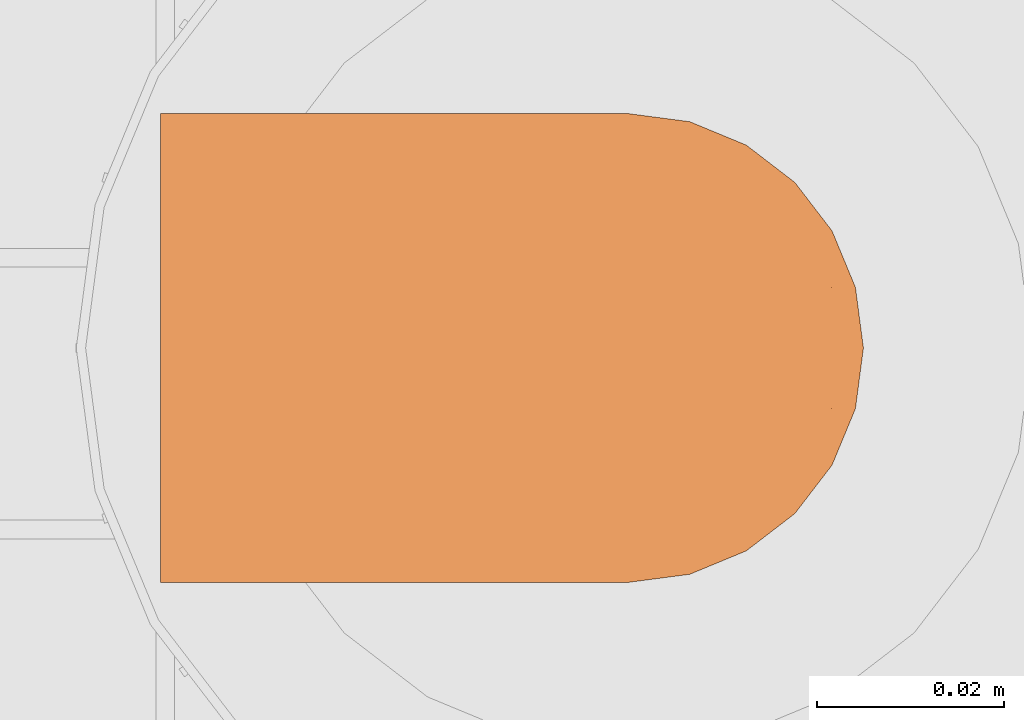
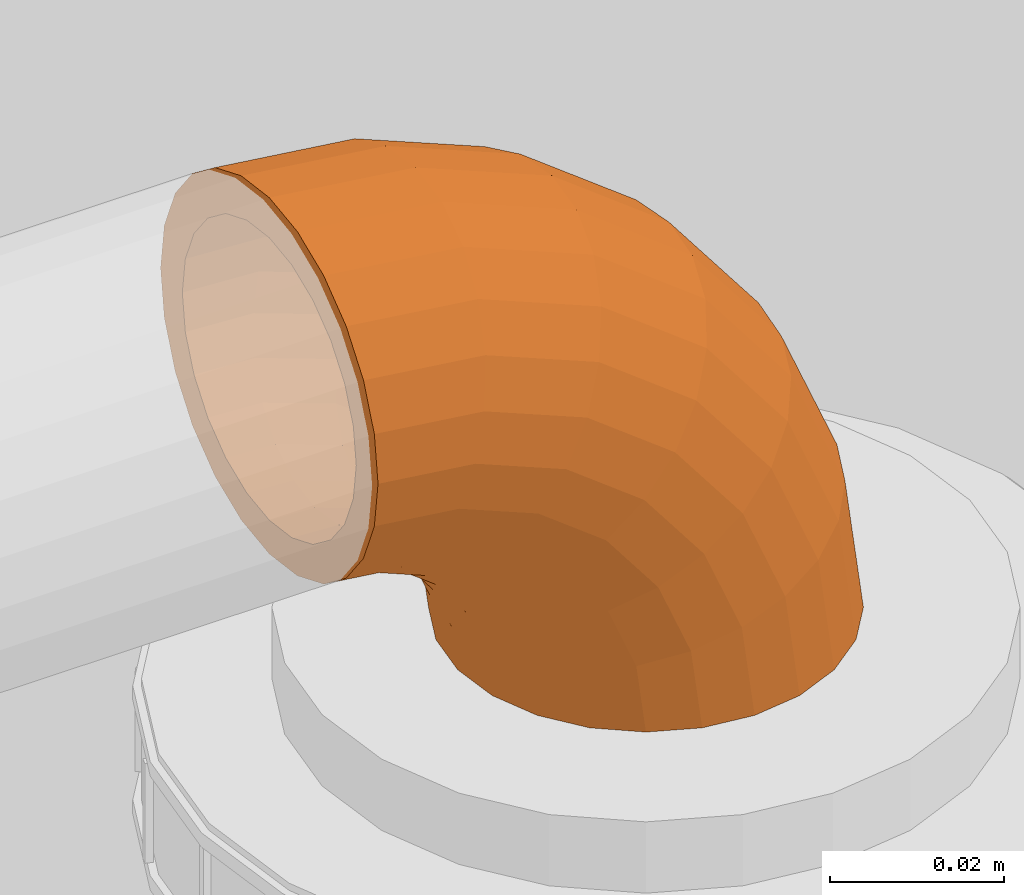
# One storey, part 112 of 112: 1 proxy.
"""IFC2X3 building model written with IfcOpenShell, lengths in millimetres."""

from ifc_helpers import new_model, entity, si_unit, converted_unit, derived_unit, money_unit, direction, frame, origin_with_axes, place, context, subcontext, project, spatial, faceted_brep, type_object, element, save


model = new_model("IFC2X3")

# Units and contexts
model_context = context("Model", 3, precision=0.01, world=origin_with_axes(), true_north=direction((0.0, 1.0)))
body_context = subcontext(model_context, "Body", "Model", "MODEL_VIEW")
ifc_project = project(units=[si_unit("LENGTHUNIT", "METRE", prefix="MILLI"), si_unit("AREAUNIT", "SQUARE_METRE"), si_unit("VOLUMEUNIT", "CUBIC_METRE"), converted_unit("PLANEANGLEUNIT", "DEGREE", entity("IfcPlaneAngleMeasure", 0.0174532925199), si_unit("PLANEANGLEUNIT", "RADIAN"), dimensions=[0, 0, 0, 0, 0, 0, 0]), si_unit("SOLIDANGLEUNIT", "STERADIAN"), money_unit("EUR"), converted_unit("TIMEUNIT", "Year", entity("IfcTimeMeasure", 31556926.0), si_unit("TIMEUNIT", "SECOND"), dimensions=[0, 0, 1, 0, 0, 0, 0]), si_unit("MASSUNIT", "GRAM", prefix="KILO"), si_unit("THERMODYNAMICTEMPERATUREUNIT", "DEGREE_CELSIUS"), si_unit("LUMINOUSINTENSITYUNIT", "LUMEN"), si_unit("ENERGYUNIT", "JOULE", prefix="MEGA"), derived_unit("THERMALCONDUCTANCEUNIT", [(si_unit("POWERUNIT", "WATT"), 1), (si_unit("LENGTHUNIT", "METRE"), -1), (si_unit("THERMODYNAMICTEMPERATUREUNIT", "KELVIN"), -1)]), derived_unit("SPECIFICHEATCAPACITYUNIT", [(si_unit("ENERGYUNIT", "JOULE"), 1), (si_unit("MASSUNIT", "GRAM", prefix="KILO"), -1), (si_unit("THERMODYNAMICTEMPERATUREUNIT", "KELVIN"), -1)]), derived_unit("MASSDENSITYUNIT", [(si_unit("MASSUNIT", "GRAM", prefix="KILO"), 1), (si_unit("VOLUMEUNIT", "CUBIC_METRE"), -1)])], contexts=[model_context])

# Site, building, storey
site_placement = place(None, origin_with_axes())
site = spatial("IfcSite", under=ifc_project, at=site_placement, Name="Politse- ja Piirivalveameti ning Päästeameti ühishoone", CompositionType="ELEMENT")
building_placement = place(site_placement, origin_with_axes())
building = spatial("IfcBuilding", under=site, at=building_placement, Name="Politse- ja Piirivalveameti ning Päästeameti ühishoone", CompositionType="ELEMENT")
storey_placement = place(building_placement, origin_with_axes())
storey = spatial("IfcBuildingStorey", under=building, at=storey_placement, Name="Esimene korrus", CompositionType="ELEMENT", Elevation=0.0)

# Proxy
building_element_proxy_type = type_object("IfcBuildingElementProxyType", Name="Elbow Tube 23", PredefinedType="NOTDEFINED")
proxy_placement = place(storey_placement, frame((67487.8691752, 18116.309139, 2925.0), z_axis=(0.0, 0.0, 1.0), x_axis=(0.0, 1.0, 0.0)))
element("IfcBuildingElementProxy", 1, at=proxy_placement, inside=storey, type_object=building_element_proxy_type, Name="Balloon Novec 1232", context=body_context, shape_type="Brep", body=[
    faceted_brep([(-6.47047612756, 0.0, -24.1481456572), (-12.5, 0.0, -21.6506350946), (-17.6776695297, 0.0, -17.6776695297), (-21.6506350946, 0.0, -12.5), (-24.1481456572, 0.0, -6.47047612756), (-25.0, 0.0, 0.0), (-24.1481456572, 0.0, 6.47047612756), (-21.6506350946, 0.0, 12.5), (-17.6776695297, 0.0, 17.6776695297), (-12.5, 0.0, 21.6506350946), (-6.47047612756, 0.0, 24.1481456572), (0.0, 0.0, 25.0), (6.47047612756, 0.0, 24.1481456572), (12.5, 0.0, 21.6506350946), (17.6776695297, 0.0, 17.6776695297), (21.6506350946, 0.0, 12.5), (24.1481456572, 0.0, 6.47047612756), (25.0, 0.0, 0.0), (24.1481456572, 0.0, -6.47047612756), (21.6506350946, 0.0, -12.5), (17.6776695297, 0.0, -17.6776695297), (12.5, 0.0, -21.6506350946), (6.47047612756, 0.0, -24.1481456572), (0.0, 0.0, -25.0), (10.0, 0.0, -17.6107524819), (14.1421356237, 0.0, -14.4606088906), (17.3205080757, 0.0, -10.3552618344), (19.3185165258, 0.0, -5.57448393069), (20.0, 0.0, -0.444077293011), (19.3185165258, 0.0, 4.68632934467), (17.3205080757, 0.0, 9.46710724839), (14.1421356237, 0.0, 13.5724543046), (10.0, 0.0, 16.7225978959), (5.17638090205, 0.0, 18.7028609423), (0.0, 0.0, 19.3782917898), (-5.17638090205, 0.0, 18.7028609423), (-10.0, 0.0, 16.7225978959), (-14.1421356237, 0.0, 13.5724543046), (-17.3205080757, 0.0, 9.46710724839), (-19.3185165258, 0.0, 4.68632934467), (-20.0, 0.0, -0.444077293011), (-19.3185165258, 0.0, -5.57448393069), (-17.3205080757, 0.0, -10.3552618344), (-14.1421356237, 0.0, -14.4606088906), (-10.0, 0.0, -17.6107524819), (-5.17638090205, 0.0, -19.5910155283), (0.0, 0.0, -20.2664463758), (5.17638090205, 0.0, -19.5910155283), (-12.5, -7.33735555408, -22.616616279), (-6.47047612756, -6.69095225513, -25.0290262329), (-17.6776695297, -8.36563470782, -18.7790262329), (-21.6506350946, -9.70571419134, -13.7777815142), (-24.1481456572, -11.2662698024, -7.95370868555), (-25.0, -12.9409522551, -1.70370868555), (-24.1481456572, -14.6156347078, 4.54629131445), (-21.6506350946, -16.1761903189, 10.3703641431), (-17.6776695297, -17.5162698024, 15.3716088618), (-12.5, -18.5445489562, 19.2091989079), (-6.47047612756, -19.1909522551, 21.6216088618), (0.0, -19.4114283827, 22.4444369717), (6.47047612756, -19.1909522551, 21.6216088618), (12.5, -18.5445489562, 19.2091989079), (17.6776695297, -17.5162698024, 15.3716088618), (21.6506350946, -16.1761903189, 10.3703641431), (24.1481456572, -14.6156347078, 4.54629131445), (25.0, -12.9409522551, -1.70370868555), (24.1481456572, -11.2662698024, -7.95370868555), (21.6506350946, -9.70571419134, -13.7777815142), (17.6776695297, -8.36563470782, -18.7790262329), (12.5, -7.33735555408, -22.616616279), (6.47047612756, -6.69095225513, -25.0290262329), (0.0, -6.47047612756, -25.8518543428), (10.0, -6.60836752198, -17.9956460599), (14.1421356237, -7.25109028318, -14.8829368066), (17.3205080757, -8.08870289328, -10.8263751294), (19.3185165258, -9.06412343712, -6.10240900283), (20.0, -10.1108786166, -1.03296891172), (19.3185165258, -11.1576337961, 4.03647117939), (17.3205080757, -12.1330543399, 8.76043730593), (14.1421356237, -12.97066695, 12.8169989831), (10.0, -13.6133897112, 15.9297082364), (5.17638090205, -14.0174221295, 17.8864390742), (0.0, -14.1552300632, 18.5538435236), (-5.17638090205, -14.0174221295, 17.8864390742), (-10.0, -13.6133897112, 15.9297082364), (-14.1421356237, -12.97066695, 12.8169989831), (-17.3205080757, -12.1330543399, 8.76043730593), (-19.3185165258, -11.1576337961, 4.03647117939), (-20.0, -10.1108786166, -1.03296891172), (-19.3185165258, -9.06412343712, -6.10240900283), (-17.3205080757, -8.08870289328, -10.8263751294), (-14.1421356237, -7.25109028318, -14.8829368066), (-10.0, -6.60836752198, -17.9956460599), (-5.17638090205, -6.2043351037, -19.9523768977), (0.0, -6.06652716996, -20.619781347), (5.17638090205, -6.2043351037, -19.9523768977), (-12.5, -14.1746824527, -25.4487298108), (-6.47047612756, -12.9259271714, -27.6116374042), (-17.6776695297, -16.1611652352, -22.0080407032), (-21.6506350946, -18.75, -17.5240473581), (-24.1481456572, -21.7647619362, -12.3023265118), (-25.0, -25.0, -6.69872981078), (-24.1481456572, -28.2352380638, -1.09513310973), (-21.6506350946, -31.25, 4.12658773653), (-17.6776695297, -33.8388347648, 8.61058108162), (-12.5, -35.8253175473, 12.0512701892), (-6.47047612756, -37.0740728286, 14.2141777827), (0.0, -37.5, 14.9519052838), (6.47047612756, -37.0740728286, 14.2141777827), (12.5, -35.8253175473, 12.0512701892), (17.6776695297, -33.8388347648, 8.61058108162), (21.6506350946, -31.25, 4.12658773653), (24.1481456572, -28.2352380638, -1.09513310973), (25.0, -25.0, -6.69872981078), (24.1481456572, -21.7647619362, -12.3023265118), (21.6506350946, -18.75, -17.5240473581), (17.6776695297, -16.1611652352, -22.0080407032), (12.5, -14.1746824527, -25.4487298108), (6.47047612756, -12.9259271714, -27.6116374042), (0.0, -12.5, -28.3493649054), (14.1421356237, -17.0181556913, -18.4378578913), (10.0, -15.5096989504, -21.2354657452), (17.3205080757, -18.9840147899, -14.7919443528), (19.3185165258, -21.2733061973, -10.5461881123), (20.0, -23.7300184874, -5.98993044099), (19.3185165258, -26.1867307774, -1.43367276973), (17.3205080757, -28.4760221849, 2.81208347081), (14.1421356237, -30.4418812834, 6.45799700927), (10.0, -31.9503380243, 9.25560486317), (5.17638090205, -32.8985935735, 11.0142546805), (0.0, -33.2220258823, 11.6140973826), (-5.17638090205, -32.8985935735, 11.0142546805), (-10.0, -31.9503380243, 9.25560486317), (-14.1421356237, -30.4418812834, 6.45799700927), (-17.3205080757, -28.4760221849, 2.81208347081), (-19.3185165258, -26.1867307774, -1.43367276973), (-20.0, -23.7300184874, -5.98993044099), (-19.3185165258, -21.2733061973, -10.5461881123), (-17.3205080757, -18.9840147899, -14.7919443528), (-14.1421356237, -17.0181556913, -18.4378578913), (-10.0, -15.5096989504, -21.2354657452), (-5.17638090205, -14.5614434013, -22.9941155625), (0.0, -14.2380110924, -23.5939582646), (5.17638090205, -14.5614434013, -22.9941155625), (-12.5, -20.0460281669, -29.9539718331), (-6.47047612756, -18.280021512, -31.719978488), (-17.6776695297, -22.8553390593, -27.1446609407), (-21.6506350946, -26.5165042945, -23.4834957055), (-24.1481456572, -30.780021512, -19.219978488), (-25.0, -35.3553390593, -14.6446609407), (-24.1481456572, -39.9306566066, -10.0693433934), (-21.6506350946, -44.1941738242, -5.80582617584), (-17.6776695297, -47.8553390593, -2.14466094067), (-12.5, -50.6646499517, 0.664649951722), (-6.47047612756, -52.4306566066, 2.43065660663), (0.0, -53.033008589, 3.03300858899), (6.47047612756, -52.4306566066, 2.43065660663), (12.5, -50.6646499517, 0.664649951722), (17.6776695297, -47.8553390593, -2.14466094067), (21.6506350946, -44.1941738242, -5.80582617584), (24.1481456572, -39.9306566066, -10.0693433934), (25.0, -35.3553390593, -14.6446609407), (24.1481456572, -30.780021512, -19.219978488), (21.6506350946, -26.5165042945, -23.4834957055), (17.6776695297, -22.8553390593, -27.1446609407), (12.5, -20.0460281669, -29.9539718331), (6.47047612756, -18.280021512, -31.719978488), (0.0, -17.6776695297, -32.3223304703), (14.1421356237, -25.3553390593, -24.6446609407), (10.0, -23.1078903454, -26.8921096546), (17.3205080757, -28.2842712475, -21.7157287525), (19.3185165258, -31.6950850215, -18.3049149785), (20.0, -35.3553390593, -14.6446609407), (19.3185165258, -39.0155930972, -10.9844069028), (17.3205080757, -42.4264068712, -7.57359312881), (14.1421356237, -45.3553390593, -4.64466094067), (10.0, -47.6027877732, -2.39721222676), (5.17638090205, -49.0155930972, -0.984406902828), (0.0, -49.4974746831, -0.502525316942), (-5.17638090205, -49.0155930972, -0.984406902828), (-10.0, -47.6027877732, -2.39721222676), (-14.1421356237, -45.3553390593, -4.64466094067), (-17.3205080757, -42.4264068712, -7.57359312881), (-19.3185165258, -39.0155930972, -10.9844069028), (-20.0, -35.3553390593, -14.6446609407), (-19.3185165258, -31.6950850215, -18.3049149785), (-17.3205080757, -28.2842712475, -21.7157287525), (-14.1421356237, -25.3553390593, -24.6446609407), (-10.0, -23.1078903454, -26.8921096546), (-5.17638090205, -21.6950850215, -28.3049149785), (0.0, -21.2132034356, -28.7867965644), (5.17638090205, -21.6950850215, -28.3049149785), (-12.5, -24.5512701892, -35.8253175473), (-6.47047612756, -22.3883625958, -37.0740728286), (-17.6776695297, -27.9919592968, -33.8388347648), (-21.6506350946, -32.4759526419, -31.25), (-24.1481456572, -37.6976734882, -28.2352380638), (-25.0, -43.3012701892, -25.0), (-24.1481456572, -48.9048668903, -21.7647619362), (-21.6506350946, -54.1265877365, -18.75), (-17.6776695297, -58.6105810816, -16.1611652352), (-12.5, -62.0512701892, -14.1746824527), (-6.47047612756, -64.2141777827, -12.9259271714), (0.0, -64.9519052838, -12.5), (6.47047612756, -64.2141777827, -12.9259271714), (12.5, -62.0512701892, -14.1746824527), (17.6776695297, -58.6105810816, -16.1611652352), (21.6506350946, -54.1265877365, -18.75), (24.1481456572, -48.9048668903, -21.7647619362), (25.0, -43.3012701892, -25.0), (24.1481456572, -37.6976734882, -28.2352380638), (21.6506350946, -32.4759526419, -31.25), (17.6776695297, -27.9919592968, -33.8388347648), (12.5, -24.5512701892, -35.8253175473), (6.47047612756, -22.3883625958, -37.0740728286), (0.0, -21.6506350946, -37.5), (14.1421356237, -31.5621421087, -32.9818443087), (10.0, -28.7645342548, -34.4903010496), (17.3205080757, -35.2080556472, -31.0159852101), (19.3185165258, -39.4538118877, -28.7266938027), (20.0, -44.010069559, -26.2699815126), (19.3185165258, -48.5663272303, -23.8132692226), (17.3205080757, -52.8120834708, -21.5239778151), (14.1421356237, -56.4579970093, -19.5581187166), (10.0, -59.2556048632, -18.0496619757), (5.17638090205, -61.0142546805, -17.1014064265), (0.0, -61.6140973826, -16.7779741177), (-5.17638090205, -61.0142546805, -17.1014064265), (-10.0, -59.2556048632, -18.0496619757), (-14.1421356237, -56.4579970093, -19.5581187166), (-17.3205080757, -52.8120834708, -21.5239778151), (-19.3185165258, -48.5663272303, -23.8132692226), (-20.0, -44.010069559, -26.2699815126), (-19.3185165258, -39.4538118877, -28.7266938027), (-17.3205080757, -35.2080556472, -31.0159852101), (-14.1421356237, -31.5621421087, -32.9818443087), (-10.0, -28.7645342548, -34.4903010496), (-5.17638090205, -27.0058844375, -35.4385565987), (0.0, -26.4060417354, -35.7619889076), (5.17638090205, -27.0058844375, -35.4385565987), (-12.5, -27.383383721, -42.6626444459), (-6.47047612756, -24.9709737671, -43.3090477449), (-17.6776695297, -31.2209737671, -41.6343652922), (-21.6506350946, -36.2222184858, -40.2942858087), (-24.1481456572, -42.0462913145, -38.7337301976), (-25.0, -48.2962913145, -37.0590477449), (-24.1481456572, -54.5462913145, -35.3843652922), (-21.6506350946, -60.3703641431, -33.8238096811), (-17.6776695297, -65.3716088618, -32.4837301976), (-12.5, -69.2091989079, -31.4554510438), (-6.47047612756, -71.6216088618, -30.8090477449), (0.0, -72.4444369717, -30.5885716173), (6.47047612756, -71.6216088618, -30.8090477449), (12.5, -69.2091989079, -31.4554510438), (17.6776695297, -65.3716088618, -32.4837301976), (21.6506350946, -60.3703641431, -33.8238096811), (24.1481456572, -54.5462913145, -35.3843652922), (25.0, -48.2962913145, -37.0590477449), (24.1481456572, -42.0462913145, -38.7337301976), (21.6506350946, -36.2222184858, -40.2942858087), (17.6776695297, -31.2209737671, -41.6343652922), (12.5, -27.383383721, -42.6626444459), (6.47047612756, -24.9709737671, -43.3090477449), (0.0, -24.1481456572, -43.5295238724), (14.1421356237, -35.1170631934, -42.7489097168), (10.0, -32.0043539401, -43.391632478), (17.3205080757, -39.1736248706, -41.9112971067), (19.3185165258, -43.8975909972, -40.9358765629), (20.0, -48.9670310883, -39.8891213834), (19.3185165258, -54.0364711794, -38.8423662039), (17.3205080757, -58.7604373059, -37.8669456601), (14.1421356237, -62.8169989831, -37.02933305), (10.0, -65.9297082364, -36.3866102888), (5.17638090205, -67.8864390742, -35.9825778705), (0.0, -68.5538435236, -35.8447699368), (-5.17638090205, -67.8864390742, -35.9825778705), (-10.0, -65.9297082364, -36.3866102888), (-14.1421356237, -62.8169989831, -37.02933305), (-17.3205080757, -58.7604373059, -37.8669456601), (-19.3185165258, -54.0364711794, -38.8423662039), (-20.0, -48.9670310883, -39.8891213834), (-19.3185165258, -43.8975909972, -40.9358765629), (-17.3205080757, -39.1736248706, -41.9112971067), (-14.1421356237, -35.1170631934, -42.7489097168), (-10.0, -32.0043539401, -43.391632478), (-5.17638090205, -30.0476231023, -43.7956648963), (0.0, -29.380218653, -43.93347283), (5.17638090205, -30.0476231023, -43.7956648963), (-12.5, -28.3493649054, -50.0), (-6.47047612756, -25.8518543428, -50.0), (-17.6776695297, -32.3223304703, -50.0), (-21.6506350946, -37.5, -50.0), (-24.1481456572, -43.5295238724, -50.0), (-25.0, -50.0, -50.0), (-24.1481456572, -56.4704761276, -50.0), (-21.6506350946, -62.5, -50.0), (-17.6776695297, -67.6776695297, -50.0), (-12.5, -71.6506350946, -50.0), (-6.47047612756, -74.1481456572, -50.0), (0.0, -75.0, -50.0), (6.47047612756, -74.1481456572, -50.0), (12.5, -71.6506350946, -50.0), (17.6776695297, -67.6776695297, -50.0), (21.6506350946, -62.5, -50.0), (24.1481456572, -56.4704761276, -50.0), (25.0, -50.0, -50.0), (24.1481456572, -43.5295238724, -50.0), (21.6506350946, -37.5, -50.0), (17.6776695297, -32.3223304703, -50.0), (12.5, -28.3493649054, -50.0), (6.47047612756, -25.8518543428, -50.0), (0.0, -25.0, -50.0), (14.1421356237, -35.5393911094, -50.0), (10.0, -32.3892475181, -50.0), (17.3205080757, -39.6447381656, -50.0), (19.3185165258, -44.4255160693, -50.0), (20.0, -49.555922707, -50.0), (19.3185165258, -54.6863293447, -50.0), (17.3205080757, -59.4671072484, -50.0), (14.1421356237, -63.5724543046, -50.0), (10.0, -66.7225978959, -50.0), (5.17638090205, -68.7028609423, -50.0), (0.0, -69.3782917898, -50.0), (-5.17638090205, -68.7028609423, -50.0), (-10.0, -66.7225978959, -50.0), (-14.1421356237, -63.5724543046, -50.0), (-17.3205080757, -59.4671072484, -50.0), (-19.3185165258, -54.6863293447, -50.0), (-20.0, -49.555922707, -50.0), (-19.3185165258, -44.4255160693, -50.0), (-17.3205080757, -39.6447381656, -50.0), (-14.1421356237, -35.5393911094, -50.0), (-10.0, -32.3892475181, -50.0), (-5.17638090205, -30.4089844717, -50.0), (0.0, -29.7335536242, -50.0), (5.17638090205, -30.4089844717, -50.0)], [[[0, 1, 2, 3, 4, 5, 6, 7, 8, 9, 10, 11, 12, 13, 14, 15, 16, 17, 18, 19, 20, 21, 22, 23], [24, 25, 26, 27, 28, 29, 30, 31, 32, 33, 34, 35, 36, 37, 38, 39, 40, 41, 42, 43, 44, 45, 46, 47]], [[48, 1, 0, 49]], [[50, 2, 1, 48]], [[51, 3, 2, 50]], [[52, 4, 3, 51]], [[53, 5, 4, 52]], [[54, 6, 5, 53]], [[55, 7, 6, 54]], [[56, 8, 7, 55]], [[57, 9, 8, 56]], [[58, 10, 9, 57]], [[59, 11, 10, 58]], [[60, 12, 11, 59]], [[61, 13, 12, 60]], [[62, 14, 13, 61]], [[63, 15, 14, 62]], [[64, 16, 15, 63]], [[65, 17, 16, 64]], [[66, 18, 17, 65]], [[67, 19, 18, 66]], [[68, 20, 19, 67]], [[69, 21, 20, 68]], [[70, 22, 21, 69]], [[71, 23, 22, 70]], [[49, 0, 23, 71]], [[24, 72, 73, 25]], [[25, 73, 74, 26]], [[26, 74, 75, 27]], [[27, 75, 76, 28]], [[28, 76, 77, 29]], [[29, 77, 78, 30]], [[30, 78, 79, 31]], [[31, 79, 80, 32]], [[32, 80, 81, 33]], [[33, 81, 82, 34]], [[34, 82, 83, 35]], [[35, 83, 84, 36]], [[36, 84, 85, 37]], [[37, 85, 86, 38]], [[38, 86, 87, 39]], [[39, 87, 88, 40]], [[40, 88, 89, 41]], [[41, 89, 90, 42]], [[42, 90, 91, 43]], [[43, 91, 92, 44]], [[44, 92, 93, 45]], [[45, 93, 94, 46]], [[46, 94, 95, 47]], [[47, 95, 72, 24]], [[96, 48, 49, 97]], [[98, 50, 48, 96]], [[99, 51, 50, 98]], [[100, 52, 51, 99]], [[101, 53, 52, 100]], [[102, 54, 53, 101]], [[103, 55, 54, 102]], [[104, 56, 55, 103]], [[105, 57, 56, 104]], [[106, 58, 57, 105]], [[107, 59, 58, 106]], [[108, 60, 59, 107]], [[109, 61, 60, 108]], [[110, 62, 61, 109]], [[111, 63, 62, 110]], [[112, 64, 63, 111]], [[113, 65, 64, 112]], [[114, 66, 65, 113]], [[115, 67, 66, 114]], [[116, 68, 67, 115]], [[117, 69, 68, 116]], [[118, 70, 69, 117]], [[119, 71, 70, 118]], [[97, 49, 71, 119]], [[120, 73, 72, 121]], [[122, 74, 73, 120]], [[123, 75, 74, 122]], [[124, 76, 75, 123]], [[125, 77, 76, 124]], [[126, 78, 77, 125]], [[127, 79, 78, 126]], [[128, 80, 79, 127]], [[129, 81, 80, 128]], [[130, 82, 81, 129]], [[131, 83, 82, 130]], [[132, 84, 83, 131]], [[133, 85, 84, 132]], [[134, 86, 85, 133]], [[135, 87, 86, 134]], [[136, 88, 87, 135]], [[137, 89, 88, 136]], [[138, 90, 89, 137]], [[139, 91, 90, 138]], [[140, 92, 91, 139]], [[141, 93, 92, 140]], [[142, 94, 93, 141]], [[143, 95, 94, 142]], [[121, 72, 95, 143]], [[144, 96, 97, 145]], [[146, 98, 96, 144]], [[147, 99, 98, 146]], [[148, 100, 99, 147]], [[149, 101, 100, 148]], [[150, 102, 101, 149]], [[151, 103, 102, 150]], [[152, 104, 103, 151]], [[153, 105, 104, 152]], [[154, 106, 105, 153]], [[155, 107, 106, 154]], [[156, 108, 107, 155]], [[157, 109, 108, 156]], [[158, 110, 109, 157]], [[159, 111, 110, 158]], [[160, 112, 111, 159]], [[161, 113, 112, 160]], [[162, 114, 113, 161]], [[163, 115, 114, 162]], [[164, 116, 115, 163]], [[165, 117, 116, 164]], [[166, 118, 117, 165]], [[167, 119, 118, 166]], [[145, 97, 119, 167]], [[168, 120, 121, 169]], [[170, 122, 120, 168]], [[171, 123, 122, 170]], [[172, 124, 123, 171]], [[173, 125, 124, 172]], [[174, 126, 125, 173]], [[175, 127, 126, 174]], [[176, 128, 127, 175]], [[177, 129, 128, 176]], [[178, 130, 129, 177]], [[179, 131, 130, 178]], [[180, 132, 131, 179]], [[181, 133, 132, 180]], [[182, 134, 133, 181]], [[183, 135, 134, 182]], [[184, 136, 135, 183]], [[185, 137, 136, 184]], [[186, 138, 137, 185]], [[187, 139, 138, 186]], [[188, 140, 139, 187]], [[189, 141, 140, 188]], [[190, 142, 141, 189]], [[191, 143, 142, 190]], [[169, 121, 143, 191]], [[192, 144, 145, 193]], [[194, 146, 144, 192]], [[195, 147, 146, 194]], [[196, 148, 147, 195]], [[197, 149, 148, 196]], [[198, 150, 149, 197]], [[199, 151, 150, 198]], [[200, 152, 151, 199]], [[201, 153, 152, 200]], [[202, 154, 153, 201]], [[203, 155, 154, 202]], [[204, 156, 155, 203]], [[205, 157, 156, 204]], [[206, 158, 157, 205]], [[207, 159, 158, 206]], [[208, 160, 159, 207]], [[209, 161, 160, 208]], [[210, 162, 161, 209]], [[211, 163, 162, 210]], [[212, 164, 163, 211]], [[213, 165, 164, 212]], [[214, 166, 165, 213]], [[215, 167, 166, 214]], [[193, 145, 167, 215]], [[216, 168, 169, 217]], [[218, 170, 168, 216]], [[219, 171, 170, 218]], [[220, 172, 171, 219]], [[221, 173, 172, 220]], [[222, 174, 173, 221]], [[223, 175, 174, 222]], [[224, 176, 175, 223]], [[225, 177, 176, 224]], [[226, 178, 177, 225]], [[227, 179, 178, 226]], [[228, 180, 179, 227]], [[229, 181, 180, 228]], [[230, 182, 181, 229]], [[231, 183, 182, 230]], [[232, 184, 183, 231]], [[233, 185, 184, 232]], [[234, 186, 185, 233]], [[235, 187, 186, 234]], [[236, 188, 187, 235]], [[237, 189, 188, 236]], [[238, 190, 189, 237]], [[239, 191, 190, 238]], [[217, 169, 191, 239]], [[240, 192, 193, 241]], [[242, 194, 192, 240]], [[243, 195, 194, 242]], [[244, 196, 195, 243]], [[245, 197, 196, 244]], [[246, 198, 197, 245]], [[247, 199, 198, 246]], [[248, 200, 199, 247]], [[249, 201, 200, 248]], [[250, 202, 201, 249]], [[251, 203, 202, 250]], [[252, 204, 203, 251]], [[253, 205, 204, 252]], [[254, 206, 205, 253]], [[255, 207, 206, 254]], [[256, 208, 207, 255]], [[257, 209, 208, 256]], [[258, 210, 209, 257]], [[259, 211, 210, 258]], [[260, 212, 211, 259]], [[261, 213, 212, 260]], [[262, 214, 213, 261]], [[263, 215, 214, 262]], [[241, 193, 215, 263]], [[264, 216, 217, 265]], [[266, 218, 216, 264]], [[267, 219, 218, 266]], [[268, 220, 219, 267]], [[269, 221, 220, 268]], [[270, 222, 221, 269]], [[271, 223, 222, 270]], [[272, 224, 223, 271]], [[273, 225, 224, 272]], [[274, 226, 225, 273]], [[275, 227, 226, 274]], [[276, 228, 227, 275]], [[277, 229, 228, 276]], [[278, 230, 229, 277]], [[279, 231, 230, 278]], [[280, 232, 231, 279]], [[281, 233, 232, 280]], [[282, 234, 233, 281]], [[283, 235, 234, 282]], [[284, 236, 235, 283]], [[285, 237, 236, 284]], [[286, 238, 237, 285]], [[287, 239, 238, 286]], [[265, 217, 239, 287]], [[288, 240, 241, 289]], [[290, 242, 240, 288]], [[291, 243, 242, 290]], [[292, 244, 243, 291]], [[293, 245, 244, 292]], [[294, 246, 245, 293]], [[295, 247, 246, 294]], [[296, 248, 247, 295]], [[297, 249, 248, 296]], [[298, 250, 249, 297]], [[299, 251, 250, 298]], [[300, 252, 251, 299]], [[301, 253, 252, 300]], [[302, 254, 253, 301]], [[303, 255, 254, 302]], [[304, 256, 255, 303]], [[305, 257, 256, 304]], [[306, 258, 257, 305]], [[307, 259, 258, 306]], [[308, 260, 259, 307]], [[309, 261, 260, 308]], [[310, 262, 261, 309]], [[311, 263, 262, 310]], [[289, 241, 263, 311]], [[312, 264, 265, 313]], [[314, 266, 264, 312]], [[315, 267, 266, 314]], [[316, 268, 267, 315]], [[317, 269, 268, 316]], [[318, 270, 269, 317]], [[319, 271, 270, 318]], [[320, 272, 271, 319]], [[321, 273, 272, 320]], [[322, 274, 273, 321]], [[323, 275, 274, 322]], [[324, 276, 275, 323]], [[325, 277, 276, 324]], [[326, 278, 277, 325]], [[327, 279, 278, 326]], [[328, 280, 279, 327]], [[329, 281, 280, 328]], [[330, 282, 281, 329]], [[331, 283, 282, 330]], [[332, 284, 283, 331]], [[333, 285, 284, 332]], [[334, 286, 285, 333]], [[335, 287, 286, 334]], [[313, 265, 287, 335]], [[310, 309, 308, 307, 306, 305, 304, 303, 302, 301, 300, 299, 298, 297, 296, 295, 294, 293, 292, 291, 290, 288, 289, 311], [326, 325, 324, 323, 322, 321, 320, 319, 318, 317, 316, 315, 314, 312, 313, 335, 334, 333, 332, 331, 330, 329, 328, 327]]]),
])

save(model, "model.ifc")
